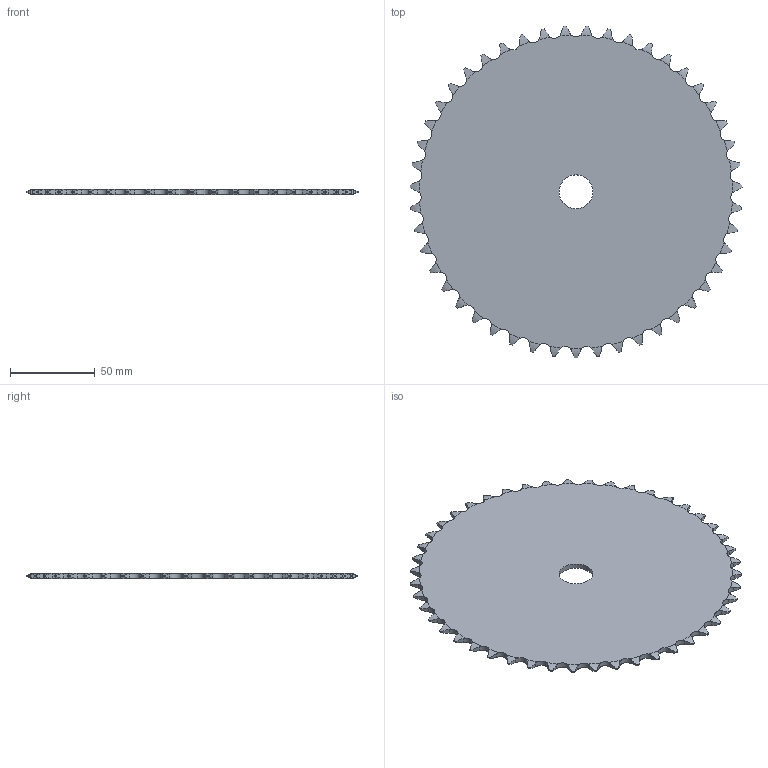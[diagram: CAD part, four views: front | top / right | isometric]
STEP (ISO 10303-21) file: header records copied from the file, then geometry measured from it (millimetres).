
FILE_DESCRIPTION((''),'2;1');
FILE_NAME('500-231-0047_PRT','2021-02-12T',('Brieden'),('Brieden'),'PRO/ENGINEER BY PARAMETRIC TECHNOLOGY CORPORATION, 2010160','PRO/ENGINEER BY PARAMETRIC TECHNOLOGY CORPORATION, 2010160','');
FILE_SCHEMA(('AUTOMOTIVE_DESIGN { 1 0 10303 214 1 1 1 1 }'));
Length unit declared in the file: millimetre
Products named in the file (1): 500-231-0047_PRT
Bounding box: 195.46 x 195.35 x 3 mm (x, y, z)
Volume: 81283.1 mm3; surface area: 56977.2 mm2
Topology: 1 solids, 1 shells, 286 faces, 852 edges, 568 vertices
Faces by surface type: cylinder 190, torus 94, plane 2
Entity records: 14000 total; most frequent: CARTESIAN_POINT 4149, ORIENTED_EDGE 1704, DIRECTION 1334, PRESENTATION_STYLE_ASSIGNMENT 853, STYLED_ITEM 853, CURVE_STYLE 852, EDGE_CURVE 852, AXIS2_PLACEMENT_3D 572
